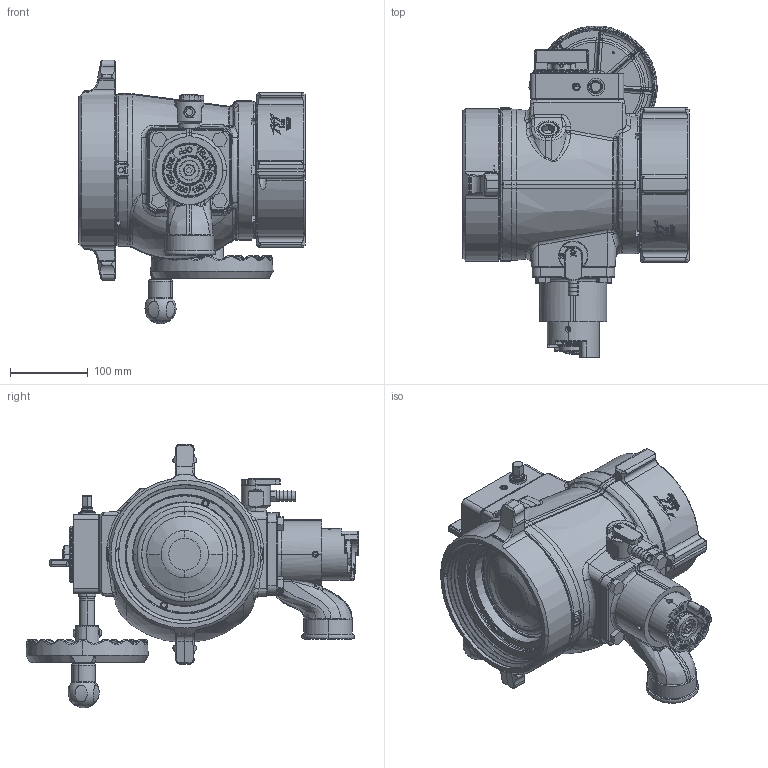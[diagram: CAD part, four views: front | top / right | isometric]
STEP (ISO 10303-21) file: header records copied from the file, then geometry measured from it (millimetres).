
FILE_DESCRIPTION (( 'STEP AP203' ), '1' );
FILE_NAME ('AP7NT-NX.step', '2014-05-13T19:15:30', ( 'user' ), ( '' ), 'SwSTEP 2.0', 'SolidWorks 2012', '' );
FILE_SCHEMA (( 'CONFIG_CONTROL_DESIGN' ));
Length unit declared in the file: inch
Products named in the file (1): AP7NT-NX
Bounding box: 291.54 x 428.06 x 339.79 mm (x, y, z)
Surface area: 645600 mm2 (no closed solid volume)
Topology: 0 solids, 151 shells, 2191 faces, 10486 edges, 8237 vertices
Faces by surface type: plane 719, bspline 525, cylinder 465, cone 294, torus 153, sphere 35
Entity records: 173139 total; most frequent: CARTESIAN_POINT 98606, ORIENTED_EDGE 14847, DIRECTION 12747, EDGE_CURVE 10453, VERTEX_POINT 8233, LINE 4915, VECTOR 4915, AXIS2_PLACEMENT_3D 3916
